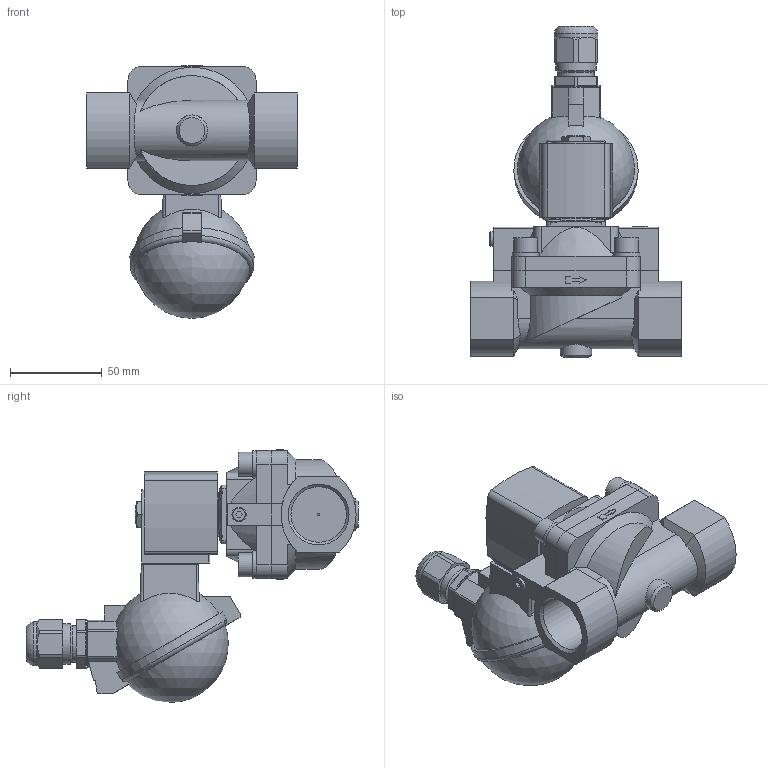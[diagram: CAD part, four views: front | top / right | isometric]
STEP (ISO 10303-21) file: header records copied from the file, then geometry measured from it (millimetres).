
FILE_DESCRIPTION(/* description */ ('STEP AP214'),/* implementation_level */ '2;1');
FILE_NAME(/* name */ '5404-366624-Servo-assisted_2_2_way_piston_valve',/* time_stamp */ '2024-02-29T14:06:41+01:00',/* author */ ('License CC BY-ND 4.0'),/* organization */ ('CADENAS'),/* preprocessor_version */ 'ST-DEVELOPER v19.3',/* originating_system */ 'PARTsolutions',/* authorisation */ ' ');
FILE_SCHEMA (('AUTOMOTIVE_DESIGN {1 0 10303 214 3 1 1}'));
Length unit declared in the file: millimetre
Products named in the file (4): 5404-366624-Servo-assisted 2/2 way piston valve; 5282g-8625MS000-2/2-Wege-Magnetventil_Gehaeuse; 5282d-25MSAU3J-2/2-Wege-Magnetventil_Deckel; AC10ex-6ATEXKLK_MB05Plan-Coil
Assembly tree (3 placements, depth 2):
  5404-366624-Servo-assisted 2/2 way piston valve
    5282g-8625MS000-2/2-Wege-Magnetventil_Gehaeuse
    5282d-25MSAU3J-2/2-Wege-Magnetventil_Deckel
    AC10ex-6ATEXKLK_MB05Plan-Coil
Bounding box: 115 x 181.4 x 138.2 mm (x, y, z)
Volume: 515648.8 mm3; surface area: 82985.1 mm2
Topology: 3 solids, 3 shells, 351 faces, 894 edges, 587 vertices
Faces by surface type: plane 202, cylinder 103, cone 34, torus 8, sphere 4
Full cylindrical faces by diameter (mm): 1 x1, 3.242 x1, 4 x4, 7.5 x4, 7.6 x4, 7.8 x1, 9.74 x1, 13 x4, 14 x1, 14.8 x4, 17 x1, 17.294 x1, 20 x1, 21 x1, 22 x1, 23 x1, 24 x1, 27 x1, 30.291 x2
Entity records: 11510 total; most frequent: CARTESIAN_POINT 2095, DIRECTION 1750, ORIENTED_EDGE 1652, EDGE_CURVE 826, AXIS2_PLACEMENT_3D 644, VERTEX_POINT 570, LINE 462, VECTOR 462
